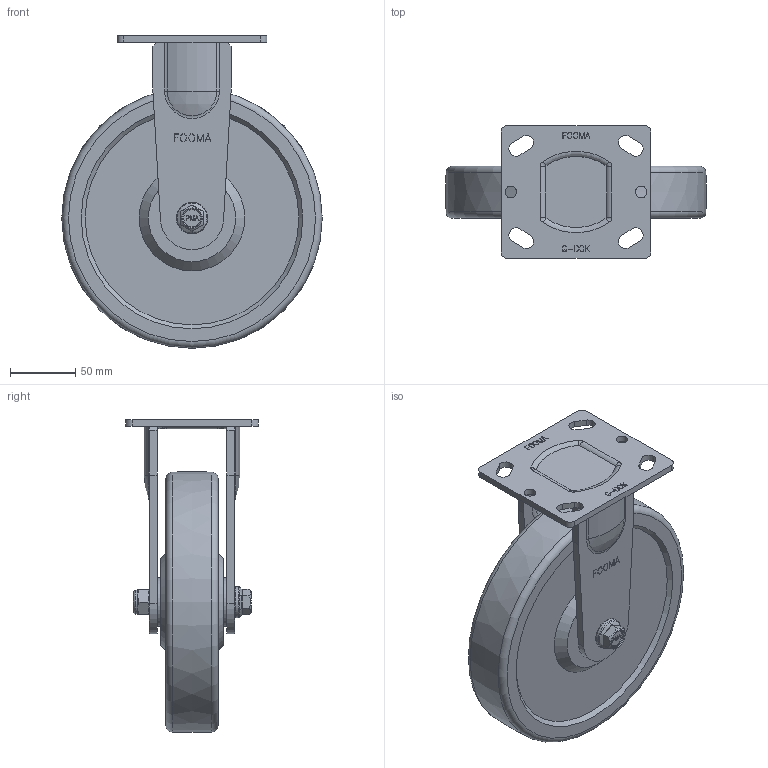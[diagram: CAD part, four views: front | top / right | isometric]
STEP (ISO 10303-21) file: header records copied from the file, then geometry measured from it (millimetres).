
FILE_DESCRIPTION(/* description */ (''),/* implementation_level */ '2;1');
FILE_NAME(/* name */ '\\192.168.10.38\지덕공유\1.기술연구소\2.연구개발 진행중\28.PLM-SERIES_MEDIUM\제품설계\홈페이지용 도면\PM-200-ARF-MCD-FZN.stp',/* time_stamp */ '2022-03-08T17:06:27+09:00',/* author */ ('admin'),/* organization */ (''),/* preprocessor_version */ 'ST-DEVELOPER v18.1',/* originating_system */ 'Autodesk Inventor 2021',/* authorisation */ '');
FILE_SCHEMA (('AUTOMOTIVE_DESIGN { 1 0 10303 214 3 1 1 }'));
Length unit declared in the file: millimetre
Products named in the file (1): PM-200-ARF-MCD-FZN
Bounding box: 200 x 102 x 240 mm (x, y, z)
Volume: 1346062.7 mm3; surface area: 148696.3 mm2
Topology: 1 solids, 1 shells, 695 faces, 1917 edges, 1272 vertices
Faces by surface type: plane 598, cylinder 37, bspline 27, torus 15, cone 14, sphere 4
Full cylindrical faces by diameter (mm): 9 x2, 14 x1, 18.5 x1, 24 x1, 37 x2
Entity records: 22923 total; most frequent: CARTESIAN_POINT 5184, ORIENTED_EDGE 3834, DIRECTION 3363, EDGE_CURVE 1917, LINE 1677, VECTOR 1677, VERTEX_POINT 1272, AXIS2_PLACEMENT_3D 843
